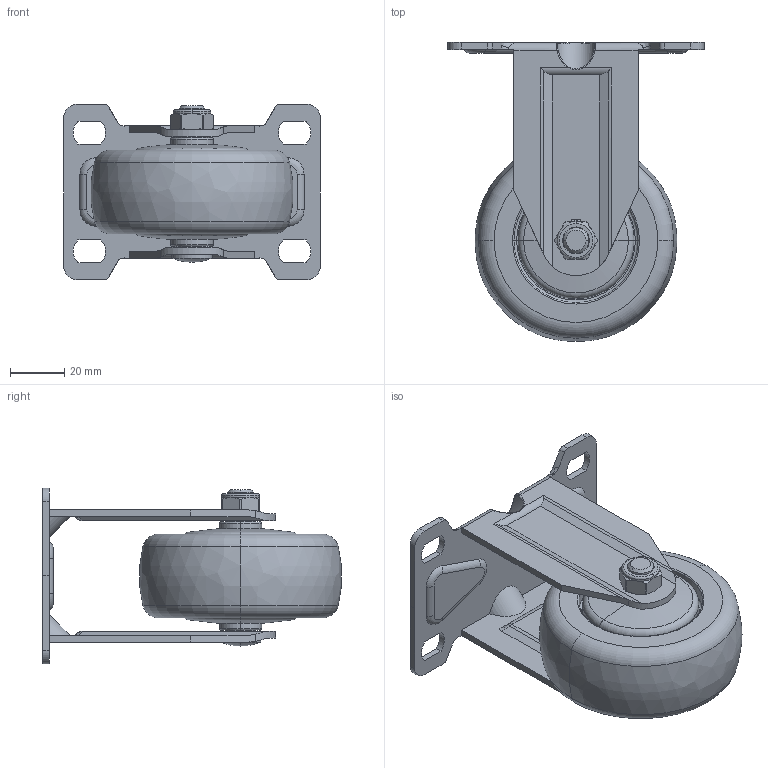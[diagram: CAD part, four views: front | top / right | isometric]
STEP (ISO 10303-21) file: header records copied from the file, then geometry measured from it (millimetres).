
FILE_DESCRIPTION((''),'2;1');
FILE_NAME('57203-573-77_ASM','2021-01-05T',('lenovo'),(''),'PRO/ENGINEER BY PARAMETRIC TECHNOLOGY CORPORATION, 2010280','PRO/ENGINEER BY PARAMETRIC TECHNOLOGY CORPORATION, 2010280','');
FILE_SCHEMA(('CONFIG_CONTROL_DESIGN'));
Length unit declared in the file: millimetre
Products named in the file (5): 5723-301; 573-77; 5710-020; 5710-031; 57203-573-77_ASM
Assembly tree (4 placements, depth 2):
  57203-573-77_ASM
    5723-301
    573-77
    5710-020
    5710-031
Bounding box: 95 x 110.65 x 65 mm (x, y, z)
Volume: 164973.8 mm3; surface area: 45438 mm2
Topology: 4 solids, 4 shells, 247 faces, 617 edges, 386 vertices
Faces by surface type: cylinder 80, plane 79, torus 34, bspline 26, cone 18, sphere 10
Entity records: 9337 total; most frequent: CARTESIAN_POINT 3420, ORIENTED_EDGE 1230, DIRECTION 1214, EDGE_CURVE 615, AXIS2_PLACEMENT_3D 480, VERTEX_POINT 386, EDGE_LOOP 271, VECTOR 254
